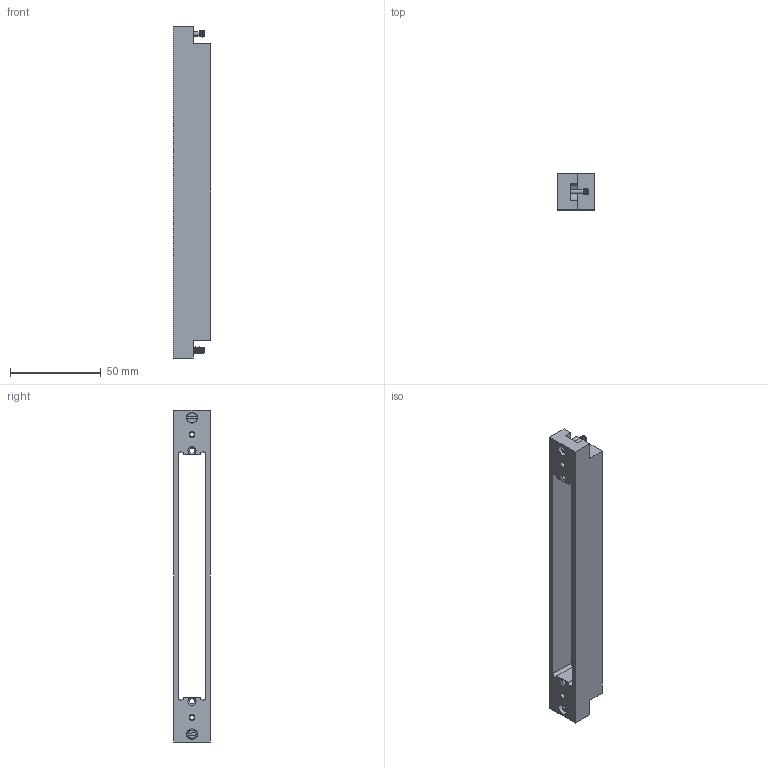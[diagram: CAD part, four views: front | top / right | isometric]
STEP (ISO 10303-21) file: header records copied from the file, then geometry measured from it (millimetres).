
FILE_DESCRIPTION((''),'2;1');
FILE_NAME('C:\copy my documents\Inventor\web site project\Receiver Accessories\561003-RevF-STP.stp','2013-05-22T08:27:21',('davecooper'),(''),'Autodesk Inventor 2011','Autodesk Inventor 2011','');
FILE_SCHEMA(('AUTOMOTIVE_DESIGN { 1 0 10303 214 1 1 1 1 }'));
Length unit declared in the file: inch
Products named in the file (6): 561003-CU; 561003; 5510154; 12134-01; A560115; ER145-25
Assembly tree (5 placements, depth 3):
  561003-CU
    561003
      5510154
      12134-01
      A560115
      ER145-25
Bounding box: 20.95 x 20.07 x 183.26 mm (x, y, z)
Volume: 25235.8 mm3; surface area: 19664.1 mm2
Topology: 4 solids, 4 shells, 137 faces, 346 edges, 226 vertices
Faces by surface type: cylinder 57, plane 57, cone 18, bspline 5
Full cylindrical faces by diameter (mm): 2.184 x4, 2.413 x1, 2.438 x2, 2.54 x2, 2.845 x2, 2.997 x1, 3.302 x2, 3.734 x1, 3.81 x2, 4.572 x1, 4.763 x2, 4.851 x1, 5.537 x2, 5.953 x2
Entity records: 4951 total; most frequent: CARTESIAN_POINT 1659, DIRECTION 674, ORIENTED_EDGE 582, EDGE_CURVE 291, AXIS2_PLACEMENT_3D 266, VERTEX_POINT 211, EDGE_LOOP 198, VECTOR 142
